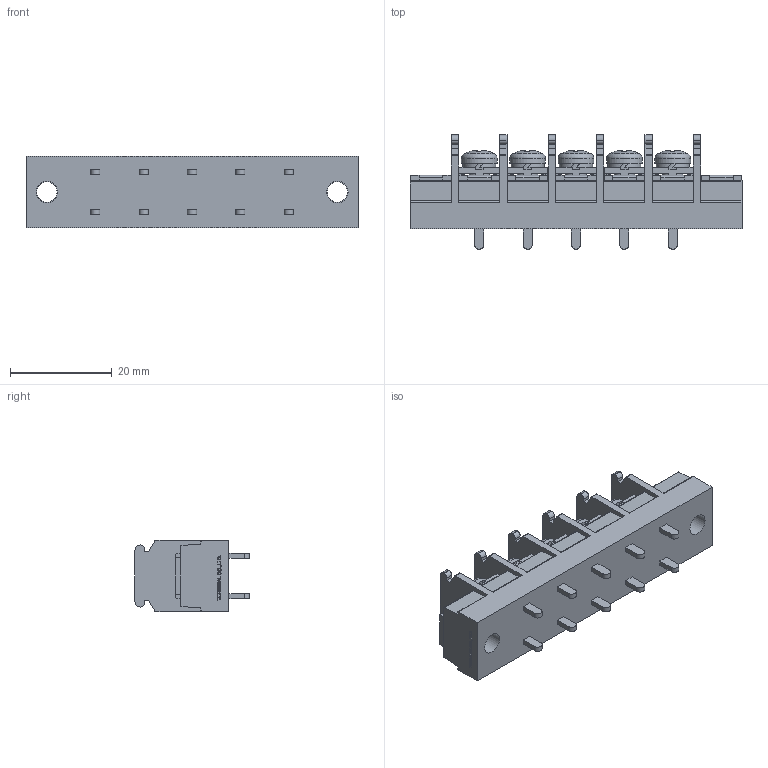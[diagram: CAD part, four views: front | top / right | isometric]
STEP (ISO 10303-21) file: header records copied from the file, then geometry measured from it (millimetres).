
FILE_DESCRIPTION(/* description */ ('Alibre Inc.'),/* implementation_level */ '2;1');
FILE_NAME(/* name */ 'export-80C384C9-AFD8-4900-AE5F-A5BD05C16ABC',/* time_stamp */ '2021-02-13T17:08:44+09:00',/* author */ (''),/* organization */ (''),/* preprocessor_version */ 'ST-DEVELOPER v17',/* originating_system */ 'Alibre',/* authorisation */ '');
FILE_SCHEMA (('CONFIG_CONTROL_DESIGN'));
Length unit declared in the file: millimetre
Bounding box: 65.2 x 22.5 x 14 mm (x, y, z)
Volume: 10314 mm3; surface area: 7039 mm2
Topology: 1 solids, 22 shells, 1059 faces, 2921 edges, 1925 vertices
Faces by surface type: plane 786, cylinder 129, bspline 104, cone 25, torus 10, sphere 5
Full cylindrical faces by diameter (mm): 4 x12, 4.2 x2, 7 x5
Entity records: 32116 total; most frequent: CARTESIAN_POINT 6805, ORIENTED_EDGE 5750, DIRECTION 4031, EDGE_CURVE 2875, VECTOR 2121, LINE 2121, VERTEX_POINT 1913, AXIS2_PLACEMENT_3D 1323
